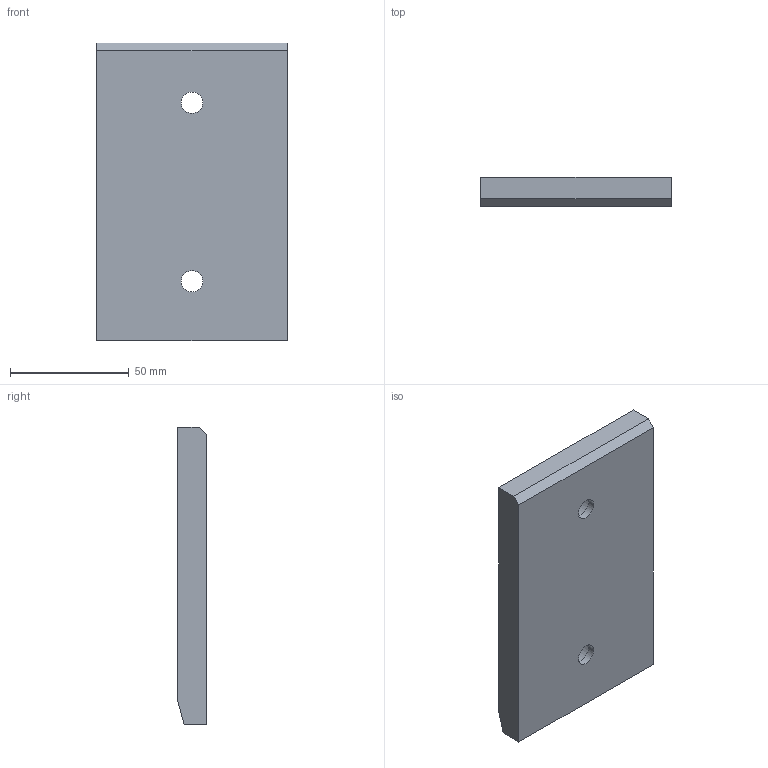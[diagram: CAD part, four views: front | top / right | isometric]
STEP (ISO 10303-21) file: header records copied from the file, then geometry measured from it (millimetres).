
FILE_DESCRIPTION (( 'STEP AP214' ), '1' );
FILE_NAME ('SW222-01-80x125.STEP', '2020-10-14T12:53:13', ( 'August' ), ( '' ), 'SwSTEP 2.0', 'SolidWorks 2018', '' );
FILE_SCHEMA (( 'AUTOMOTIVE_DESIGN' ));
Length unit declared in the file: millimetre
Products named in the file (1): SW222-01-80x125
Bounding box: 80 x 12 x 125 mm (x, y, z)
Volume: 100636.3 mm3; surface area: 32471.2 mm2
Topology: 1 solids, 1 shells, 149 faces, 305 edges, 202 vertices
Faces by surface type: cylinder 93, plane 52, cone 4
Entity records: 4312 total; most frequent: DIRECTION 795, CARTESIAN_POINT 657, ORIENTED_EDGE 610, AXIS2_PLACEMENT_3D 340, EDGE_CURVE 305, VERTEX_POINT 202, EDGE_LOOP 197, CIRCLE 190
